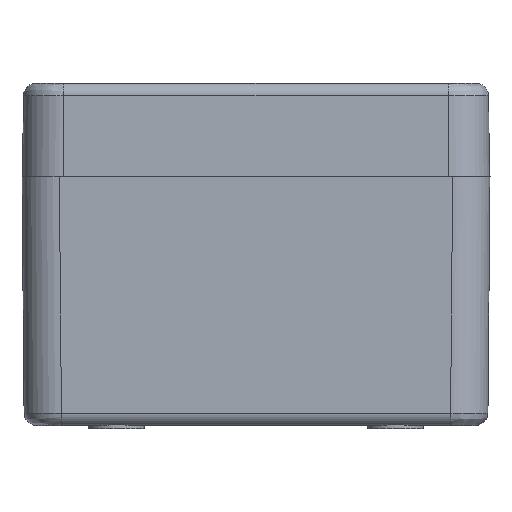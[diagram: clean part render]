
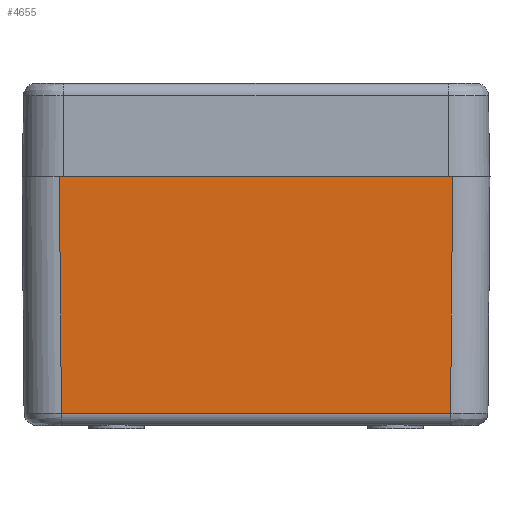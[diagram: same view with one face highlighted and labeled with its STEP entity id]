
A CAD part, left-side view. The second image highlights one B-rep face of the part: STEP entity #4655.
In plain terms, the highlighted planar face has unit normal (-1, 0, -0.009).
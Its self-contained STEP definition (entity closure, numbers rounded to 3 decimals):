
#611=PLANE('',#5072);
#801=FACE_OUTER_BOUND('',#1146,.T.);
#1146=EDGE_LOOP('',(#3628,#3629,#3630,#3631));
#1499=LINE('',#7608,#1821);
#1502=LINE('',#7650,#1824);
#1504=LINE('',#7654,#1826);
#1508=LINE('',#7662,#1830);
#1821=VECTOR('',#5978,38.02);
#1824=VECTOR('',#5991,38.02);
#1826=VECTOR('',#5997,62.537);
#1830=VECTOR('',#6009,63.2);
#2233=VERTEX_POINT('',#7601);
#2235=VERTEX_POINT('',#7606);
#2236=VERTEX_POINT('',#7640);
#2238=VERTEX_POINT('',#7646);
#2738=EDGE_CURVE('',#2235,#2233,#1499,.T.);
#2745=EDGE_CURVE('',#2236,#2238,#1502,.T.);
#2747=EDGE_CURVE('',#2233,#2236,#1504,.T.);
#2751=EDGE_CURVE('',#2235,#2238,#1508,.T.);
#3628=ORIENTED_EDGE('',*,*,#2738,.F.);
#3629=ORIENTED_EDGE('',*,*,#2751,.T.);
#3630=ORIENTED_EDGE('',*,*,#2745,.F.);
#3631=ORIENTED_EDGE('',*,*,#2747,.F.);
#4655=ADVANCED_FACE('',(#801),#611,.T.);
#5072=AXIS2_PLACEMENT_3D('',#7664,#6011,#6012);
#5978=DIRECTION('',(0.009,0.009,-1.));
#5991=DIRECTION('',(-0.009,0.009,1.));
#5997=DIRECTION('',(0.,1.,0.));
#6009=DIRECTION('',(0.,1.,0.));
#6011=DIRECTION('center_axis',(-1.,0.,-0.009));
#6012=DIRECTION('ref_axis',(0.,1.,0.));
#7601=CARTESIAN_POINT('',(-94.818,-31.268,-38.017));
#7606=CARTESIAN_POINT('',(-95.15,-31.6,0.));
#7608=CARTESIAN_POINT('',(-95.148,-31.598,-0.276));
#7640=CARTESIAN_POINT('',(-94.818,31.268,-38.017));
#7646=CARTESIAN_POINT('',(-95.15,31.6,0.));
#7650=CARTESIAN_POINT('',(-95.143,31.593,-0.778));
#7654=CARTESIAN_POINT('',(-94.818,18.8,-38.017));
#7662=CARTESIAN_POINT('',(-95.15,-37.6,0.));
#7664=CARTESIAN_POINT('Origin',(-95.15,37.6,0.));
